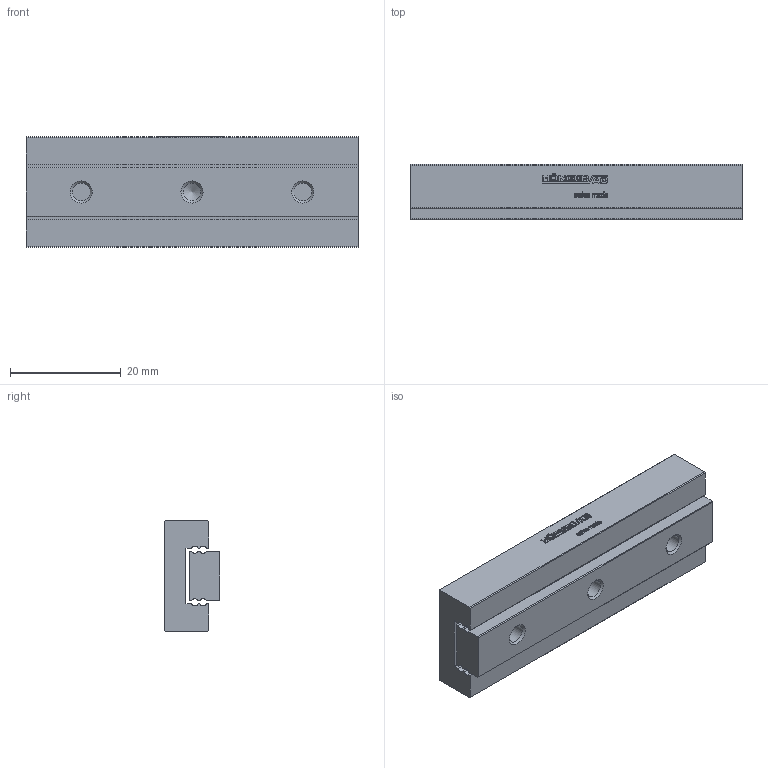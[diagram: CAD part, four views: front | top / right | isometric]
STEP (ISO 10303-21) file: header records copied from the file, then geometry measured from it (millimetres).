
FILE_DESCRIPTION(/* description */ ('STEP AP214'),/* implementation_level */ '2;1');
FILE_NAME(/* name */ 'MSK 9-60.50(0)',/* time_stamp */ '2025-04-16T17:01:01+02:00',/* author */ ('License CC BY-ND 4.0'),/* organization */ ('CADENAS'),/* preprocessor_version */ 'ST-DEVELOPER v19.3',/* originating_system */ 'PARTsolutions',/* authorisation */ ' ');
FILE_SCHEMA (('AUTOMOTIVE_DESIGN {1 0 10303 214 3 1 1}'));
Length unit declared in the file: millimetre
Products named in the file (3): MSK 9-60.50(0); MSK 9-60.50_1; MSK 9-60.50_2
Assembly tree (2 placements, depth 2):
  MSK 9-60.50(0)
    MSK 9-60.50_1
    MSK 9-60.50_2
Bounding box: 60 x 10 x 20 mm (x, y, z)
Volume: 9464.1 mm3; surface area: 6614.3 mm2
Topology: 2 solids, 2 shells, 544 faces, 1489 edges, 988 vertices
Faces by surface type: cylinder 315, plane 215, cone 14
Full cylindrical faces by diameter (mm): 2.459 x10, 3.242 x3, 6 x2
Entity records: 17417 total; most frequent: DIRECTION 3196, CARTESIAN_POINT 2994, ORIENTED_EDGE 2918, EDGE_CURVE 1459, AXIS2_PLACEMENT_3D 1190, VERTEX_POINT 988, LINE 816, VECTOR 816
